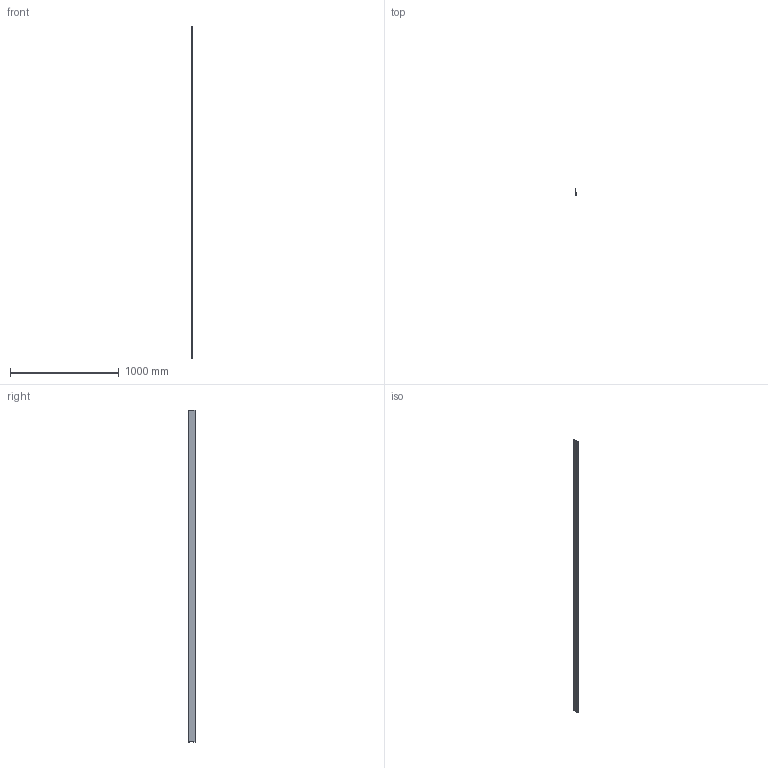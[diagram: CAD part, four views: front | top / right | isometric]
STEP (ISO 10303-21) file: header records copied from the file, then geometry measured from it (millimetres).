
FILE_DESCRIPTION (( 'STEP AP203' ), '1' );
FILE_NAME ('M70B.STEP', '2018-06-18T12:51:09', ( 'Michael Moliner' ), ( '' ), 'SwSTEP 2.0', 'SolidWorks 2018', '' );
FILE_SCHEMA (( 'CONFIG_CONTROL_DESIGN' ));
Length unit declared in the file: inch
Products named in the file (2): M70B
Bounding box: 1.91 x 57.02 x 3048 mm (x, y, z)
Volume: 118435 mm3; surface area: 469453.9 mm2
Topology: 1 solids, 1 shells, 10 faces, 24 edges, 16 vertices
Faces by surface type: plane 8, cylinder 2
Entity records: 449 total; most frequent: CARTESIAN_POINT 52, DIRECTION 52, ORIENTED_EDGE 48, EDGE_CURVE 24, VECTOR 20, LINE 20, AXIS2_PLACEMENT_3D 16, VERTEX_POINT 16
